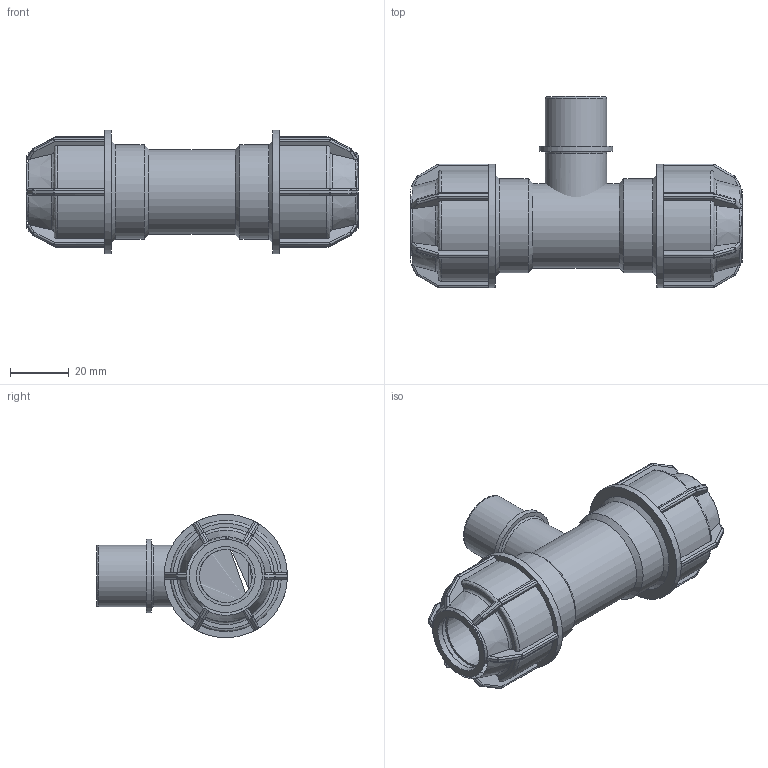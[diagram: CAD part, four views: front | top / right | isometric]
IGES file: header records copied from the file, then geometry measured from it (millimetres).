
Global section: file name: 148400020005.ipt; native system: Autodesk Inventor 2015; preprocessor: unknown; author: KIM; date: 20180409.131227; units: millimetre
Bounding box: 113 x 65 x 42 mm (x, y, z)
Volume: 68969.1 mm3; surface area: 27874.4 mm2
Topology: 2 solids, 2 shells, 415 faces, 999 edges, 585 vertices
Faces by surface type: plane 197, cylinder 116, sphere 48, revolution 38, cone 16
Full cylindrical faces by diameter (mm): 20.955 x2, 25.146 x1, 28.8 x1, 32 x2, 42 x2
